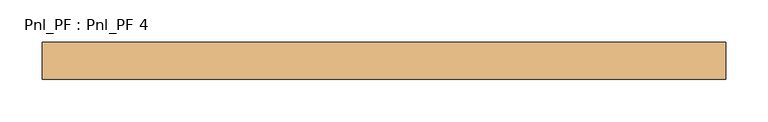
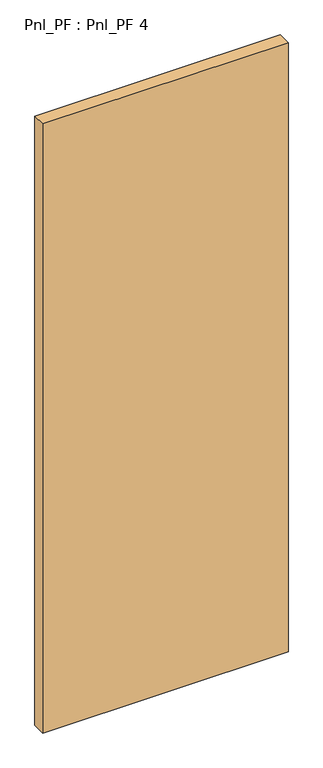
"""IFC4 building model written with IfcOpenShell, lengths in millimetres: door geometry, Pnl_PF : Pnl_PF 4."""

from ifc_helpers import new_model, si_unit, origin, origin_with_axes, place, context, project, spatial, polyline, outline, extrude, source, transform, mapped, element, save


def pnl_pf_pnl_pf_4_cdf92fc8(model_context):
    return source(origin(), model_context, "Body", "SweptSolid", [
        extrude(outline(polyline([(812.8, -44.45), (0.0, -44.45), (0.0, 0.0), (812.8, 0.0), (812.8, -44.45)])), origin_with_axes(), (0.0, 0.0, 1.0), 2133.6),
    ])


if __name__ == "__main__":
    model = new_model("IFC4")
    model_context = context("Model", 3, world=origin())
    ifc_project = project(units=[si_unit("LENGTHUNIT", "METRE", prefix="MILLI")], contexts=[model_context])
    site = spatial("IfcSite", under=ifc_project)
    building = spatial("IfcBuilding", under=site)
    placement = place(None, origin())
    pnl_pf_pnl_pf_4_shape = pnl_pf_pnl_pf_4_cdf92fc8(model_context)
    element("IfcDoor", 1, ObjectType="Pnl_PF : Pnl_PF 4", at=placement, inside=building, context=model_context, shape_type="MappedRepresentation", body=[
        mapped(pnl_pf_pnl_pf_4_shape, transform((0.0, 0.0, 0.0), x_axis=(1.0, 0.0, 0.0), y_axis=(0.0, 1.0, 0.0), z_axis=(0.0, 0.0, 1.0))),
    ])
    save(model, "model.ifc")
